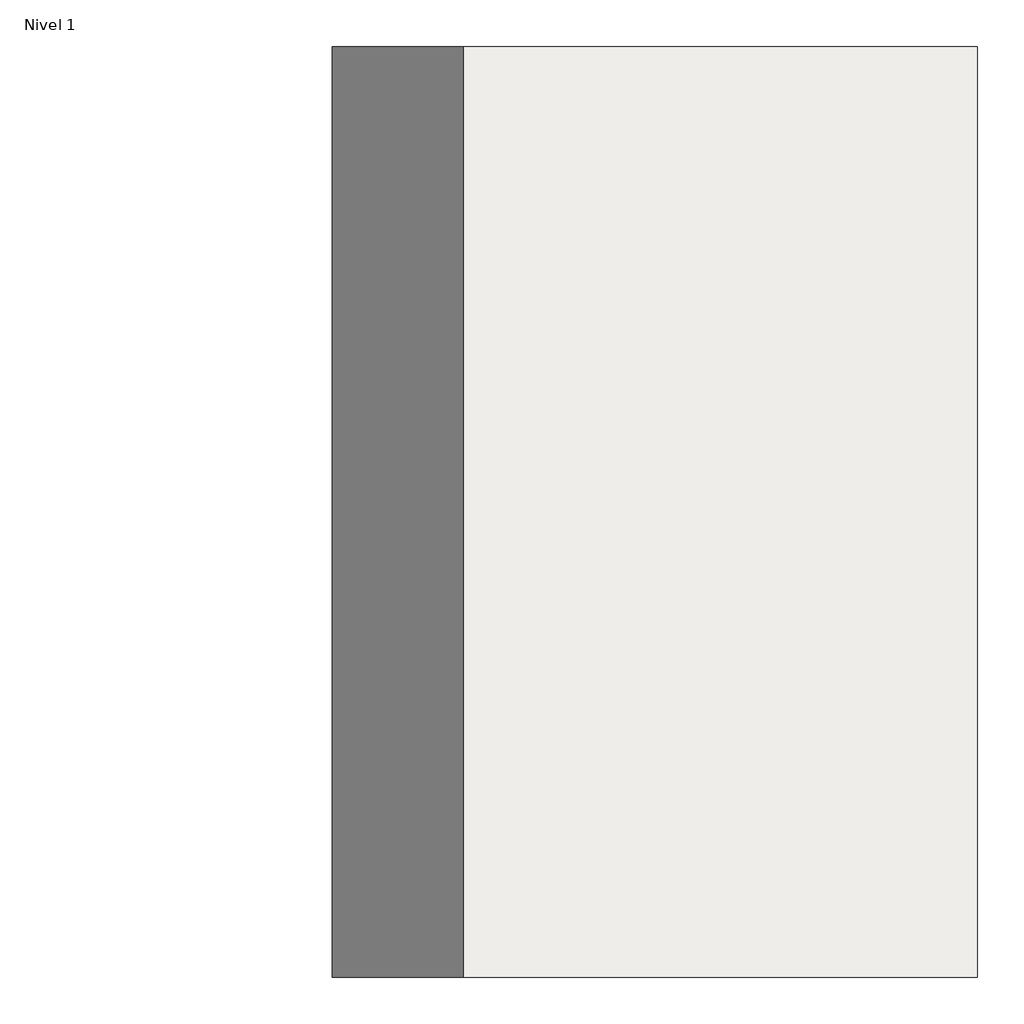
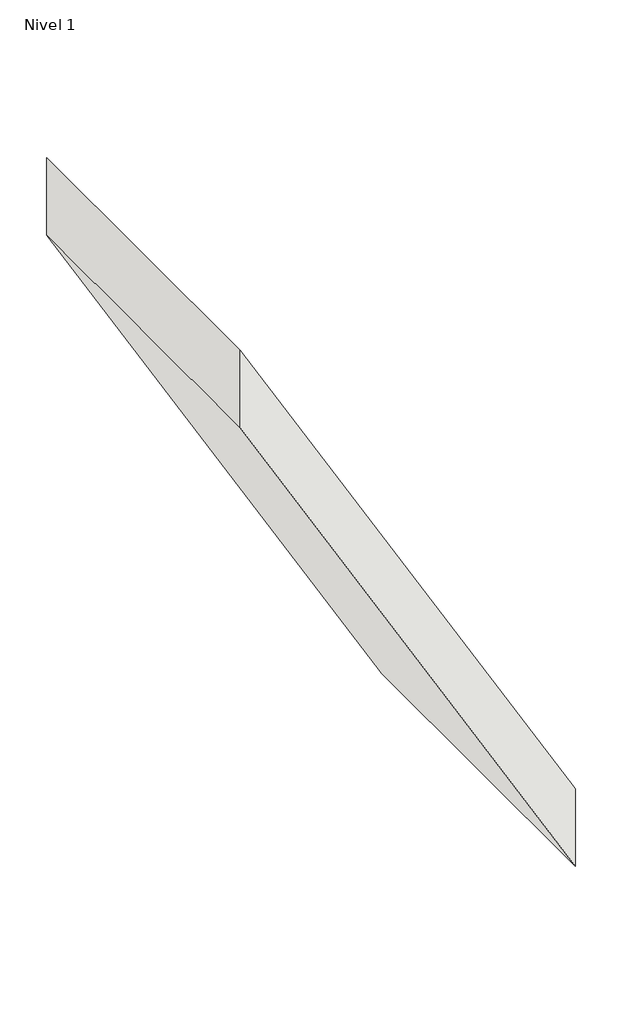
# One storey: 1 roof.
"""IFC4 building model written with IfcOpenShell, lengths in millimetres."""

from ifc_helpers import new_model, si_unit, frame, origin, place, context, project, spatial, polyline, outline, extrude, element, save

model = new_model("IFC4")

# Units and contexts
model_context = context("Model", 3, world=origin())
ifc_project = project(units=[si_unit("LENGTHUNIT", "METRE", prefix="MILLI")], contexts=[model_context])

# Site, building, storey
site = spatial("IfcSite", under=ifc_project)
building = spatial("IfcBuilding", under=site)
storey = spatial("IfcBuildingStorey", under=building, Name="Nivel 1", Elevation=0.0)

# Roof
placement = place(None, origin())
element("IfcRoof", 1, ObjectType="Aisl. poliuretano + Teja", at=placement, inside=storey, context=model_context, shape_type="SweptSolid", body=[
    extrude(outline(polyline([(244.0, -3013.2553136), (1976.0508076, -4013.2553136), (1732.0508076, -4013.2553136), (0.0, -3013.2553136), (244.0, -3013.2553136)])), frame((0.0, 3631.8256744, 0.0), z_axis=(0.0, 1.0, 0.0), x_axis=(0.0, 0.0, 1.0)), (0.0, 0.0, 1.0), 1000.0),
])

save(model, "model.ifc")
